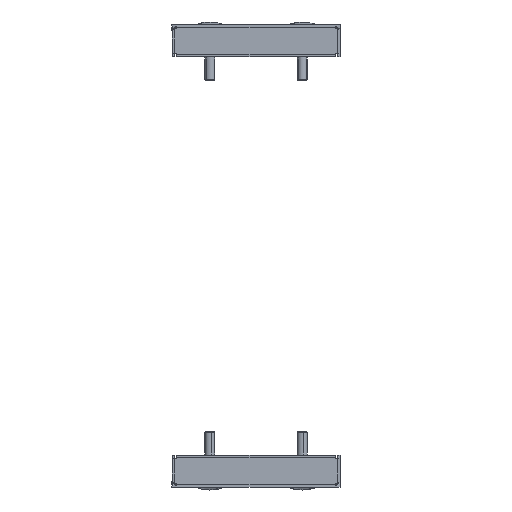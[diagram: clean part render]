
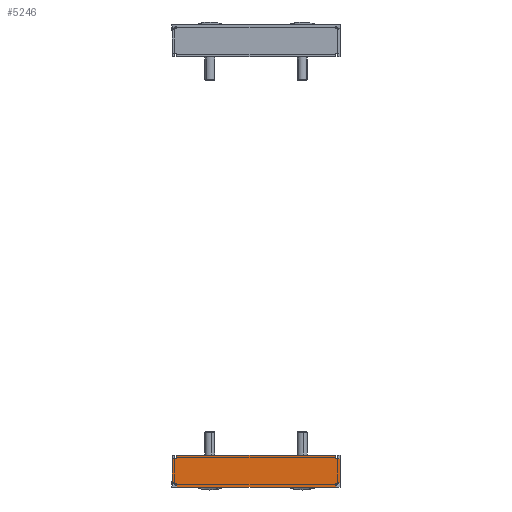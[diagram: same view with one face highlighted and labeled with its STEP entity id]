
A CAD part, left-side view. The second image highlights one B-rep face of the part: STEP entity #5246.
In plain terms, the highlighted planar face has unit normal (-1, 0, 0).
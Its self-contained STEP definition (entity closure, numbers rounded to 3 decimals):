
#41 = DIRECTION ( 'NONE',  ( 0., 0., 1. ) ) ;
#142 = VERTEX_POINT ( 'NONE', #6047 ) ;
#254 = CARTESIAN_POINT ( 'NONE',  ( -499.5, 47.3, 17.5 ) ) ;
#287 = ORIENTED_EDGE ( 'NONE', *, *, #7108, .F. ) ;
#315 = ORIENTED_EDGE ( 'NONE', *, *, #7065, .T. ) ;
#444 = ORIENTED_EDGE ( 'NONE', *, *, #842, .T. ) ;
#465 = VECTOR ( 'NONE', #5627, 1000. ) ;
#595 = CARTESIAN_POINT ( 'NONE',  ( -499.5, 50., 0.777 ) ) ;
#716 = CARTESIAN_POINT ( 'NONE',  ( -499.5, -50., 0. ) ) ;
#825 = B_SPLINE_CURVE_WITH_KNOTS ( 'NONE', 3,
 ( #6835, #1570, #9921, #3043, #6098, #6050 ),
 .UNSPECIFIED., .F., .F.,
 ( 4, 2, 4 ),
 ( 0.006, 0.007, 0.008 ),
 .UNSPECIFIED. ) ;
#839 = VERTEX_POINT ( 'NONE', #9404 ) ;
#842 = EDGE_CURVE ( 'NONE', #3548, #7265, #4832, .T. ) ;
#946 = DIRECTION ( 'NONE',  ( 0., 0., 1. ) ) ;
#1006 = CARTESIAN_POINT ( 'NONE',  ( -499.5, -47.9, 15.4 ) ) ;
#1037 = EDGE_CURVE ( 'NONE', #1962, #839, #5683, .T. ) ;
#1074 = ORIENTED_EDGE ( 'NONE', *, *, #4295, .F. ) ;
#1080 = LINE ( 'NONE', #5502, #6537 ) ;
#1097 = CARTESIAN_POINT ( 'NONE',  ( -499.5, -47.3, -1.5 ) ) ;
#1181 = VECTOR ( 'NONE', #4213, 1000. ) ;
#1254 = CARTESIAN_POINT ( 'NONE',  ( -499.5, 48.599, 0.674 ) ) ;
#1308 = VECTOR ( 'NONE', #9075, 1000. ) ;
#1570 = CARTESIAN_POINT ( 'NONE',  ( -499.5, -48.249, 0.637 ) ) ;
#1587 = EDGE_CURVE ( 'NONE', #3400, #2205, #2339, .T. ) ;
#1854 = CARTESIAN_POINT ( 'NONE',  ( -499.5, -47.3, 0. ) ) ;
#1856 = DIRECTION ( 'NONE',  ( 0., -1., 0. ) ) ;
#1936 = ORIENTED_EDGE ( 'NONE', *, *, #1587, .T. ) ;
#1962 = VERTEX_POINT ( 'NONE', #1006 ) ;
#1969 = CARTESIAN_POINT ( 'NONE',  ( -499.5, 47.9, 0.6 ) ) ;
#2012 = EDGE_CURVE ( 'NONE', #2205, #8472, #6322, .T. ) ;
#2100 = LINE ( 'NONE', #2812, #7271 ) ;
#2145 = DIRECTION ( 'NONE',  ( 0., 0., -1. ) ) ;
#2189 = ORIENTED_EDGE ( 'NONE', *, *, #2635, .T. ) ;
#2205 = VERTEX_POINT ( 'NONE', #5178 ) ;
#2251 = VERTEX_POINT ( 'NONE', #6767 ) ;
#2272 = LINE ( 'NONE', #716, #1308 ) ;
#2318 = VECTOR ( 'NONE', #8198, 1000. ) ;
#2339 = LINE ( 'NONE', #7702, #1181 ) ;
#2514 = CARTESIAN_POINT ( 'NONE',  ( -499.5, 0., 17.5 ) ) ;
#2527 = CARTESIAN_POINT ( 'NONE',  ( -499.5, 50., 15.4 ) ) ;
#2597 = ORIENTED_EDGE ( 'NONE', *, *, #2012, .T. ) ;
#2607 = VECTOR ( 'NONE', #9569, 1000. ) ;
#2635 = EDGE_CURVE ( 'NONE', #1962, #2251, #1080, .T. ) ;
#2671 = CARTESIAN_POINT ( 'NONE',  ( -499.5, 47.9, 15.4 ) ) ;
#2693 = LINE ( 'NONE', #3657, #2607 ) ;
#2733 = LINE ( 'NONE', #5784, #3742 ) ;
#2772 = VECTOR ( 'NONE', #7132, 1000. ) ;
#2812 = CARTESIAN_POINT ( 'NONE',  ( -499.5, 50., 0. ) ) ;
#2914 = VERTEX_POINT ( 'NONE', #254 ) ;
#2942 = LINE ( 'NONE', #7592, #8864 ) ;
#3004 = DIRECTION ( 'NONE',  ( 0., -1., 0. ) ) ;
#3043 = CARTESIAN_POINT ( 'NONE',  ( -499.5, -49.299, 0.734 ) ) ;
#3229 = CARTESIAN_POINT ( 'NONE',  ( -499.5, 47.9, 0.6 ) ) ;
#3318 = ORIENTED_EDGE ( 'NONE', *, *, #1037, .F. ) ;
#3400 = VERTEX_POINT ( 'NONE', #3229 ) ;
#3488 = CARTESIAN_POINT ( 'NONE',  ( -499.5, 49.649, 0.758 ) ) ;
#3548 = VERTEX_POINT ( 'NONE', #2671 ) ;
#3549 = CARTESIAN_POINT ( 'NONE',  ( -499.5, -47.3, 17.5 ) ) ;
#3657 = CARTESIAN_POINT ( 'NONE',  ( -499.5, 0., -1.5 ) ) ;
#3665 = VERTEX_POINT ( 'NONE', #3960 ) ;
#3667 = CARTESIAN_POINT ( 'NONE',  ( -499.5, 0., 0. ) ) ;
#3742 = VECTOR ( 'NONE', #7384, 1000. ) ;
#3960 = CARTESIAN_POINT ( 'NONE',  ( -499.5, 50., 0.777 ) ) ;
#4020 = EDGE_CURVE ( 'NONE', #3665, #3400, #8910, .T. ) ;
#4090 = CARTESIAN_POINT ( 'NONE',  ( -499.5, 47.3, 0.6 ) ) ;
#4102 = CARTESIAN_POINT ( 'NONE',  ( -499.5, -50., 0.777 ) ) ;
#4213 = DIRECTION ( 'NONE',  ( 0., -1., 0. ) ) ;
#4219 = DIRECTION ( 'NONE',  ( 1., 0., 0. ) ) ;
#4295 = EDGE_CURVE ( 'NONE', #7650, #9001, #4880, .T. ) ;
#4832 = LINE ( 'NONE', #5426, #465 ) ;
#4877 = EDGE_CURVE ( 'NONE', #2914, #6852, #5622, .T. ) ;
#4880 = LINE ( 'NONE', #1854, #5770 ) ;
#4987 = CARTESIAN_POINT ( 'NONE',  ( -499.5, 0., 15.4 ) ) ;
#5178 = CARTESIAN_POINT ( 'NONE',  ( -499.5, 47.3, 0.6 ) ) ;
#5242 = AXIS2_PLACEMENT_3D ( 'NONE', #3667, #4219, #2145 ) ;
#5246 = ADVANCED_FACE ( 'NONE', ( #6645 ), #8928, .F. ) ;
#5360 = ORIENTED_EDGE ( 'NONE', *, *, #4020, .T. ) ;
#5387 = EDGE_CURVE ( 'NONE', #142, #6339, #825, .T. ) ;
#5426 = CARTESIAN_POINT ( 'NONE',  ( -499.5, 47.9, 15.4 ) ) ;
#5502 = CARTESIAN_POINT ( 'NONE',  ( -499.5, -47.9, 15.4 ) ) ;
#5604 = EDGE_CURVE ( 'NONE', #8472, #9001, #2693, .T. ) ;
#5622 = LINE ( 'NONE', #2514, #9240 ) ;
#5627 = DIRECTION ( 'NONE',  ( 0., 1., 0. ) ) ;
#5683 = LINE ( 'NONE', #4987, #2318 ) ;
#5719 = EDGE_LOOP ( 'NONE', ( #2189, #315, #7055, #8800, #8036, #444, #8535, #5360, #1936, #2597, #7922, #1074, #9639, #8304, #287, #3318 ) ) ;
#5770 = VECTOR ( 'NONE', #7937, 1000. ) ;
#5784 = CARTESIAN_POINT ( 'NONE',  ( -499.5, -47.9, 0.6 ) ) ;
#6000 = VECTOR ( 'NONE', #3004, 1000. ) ;
#6047 = CARTESIAN_POINT ( 'NONE',  ( -499.5, -47.9, 0.6 ) ) ;
#6050 = CARTESIAN_POINT ( 'NONE',  ( -499.5, -50., 0.777 ) ) ;
#6098 = CARTESIAN_POINT ( 'NONE',  ( -499.5, -49.649, 0.758 ) ) ;
#6322 = LINE ( 'NONE', #4090, #2772 ) ;
#6339 = VERTEX_POINT ( 'NONE', #4102 ) ;
#6537 = VECTOR ( 'NONE', #9526, 1000. ) ;
#6570 = CARTESIAN_POINT ( 'NONE',  ( -499.5, 49.299, 0.734 ) ) ;
#6645 = FACE_OUTER_BOUND ( 'NONE', #5719, .T. ) ;
#6767 = CARTESIAN_POINT ( 'NONE',  ( -499.5, -47.3, 15.4 ) ) ;
#6805 = LINE ( 'NONE', #9890, #6000 ) ;
#6835 = CARTESIAN_POINT ( 'NONE',  ( -499.5, -47.9, 0.6 ) ) ;
#6852 = VERTEX_POINT ( 'NONE', #3549 ) ;
#7042 = CARTESIAN_POINT ( 'NONE',  ( -499.5, 47.3, 15.4 ) ) ;
#7055 = ORIENTED_EDGE ( 'NONE', *, *, #4877, .F. ) ;
#7065 = EDGE_CURVE ( 'NONE', #2251, #6852, #2942, .T. ) ;
#7067 = CARTESIAN_POINT ( 'NONE',  ( -499.5, 47.3, 0. ) ) ;
#7108 = EDGE_CURVE ( 'NONE', #839, #6339, #2272, .T. ) ;
#7132 = DIRECTION ( 'NONE',  ( 0., 0., -1. ) ) ;
#7265 = VERTEX_POINT ( 'NONE', #2527 ) ;
#7271 = VECTOR ( 'NONE', #7418, 1000. ) ;
#7343 = EDGE_CURVE ( 'NONE', #142, #7650, #2733, .T. ) ;
#7384 = DIRECTION ( 'NONE',  ( 0., 1., 0. ) ) ;
#7418 = DIRECTION ( 'NONE',  ( 0., 0., -1. ) ) ;
#7592 = CARTESIAN_POINT ( 'NONE',  ( -499.5, -47.3, 15.4 ) ) ;
#7650 = VERTEX_POINT ( 'NONE', #8497 ) ;
#7702 = CARTESIAN_POINT ( 'NONE',  ( -499.5, 47.9, 0.6 ) ) ;
#7826 = LINE ( 'NONE', #7067, #8244 ) ;
#7922 = ORIENTED_EDGE ( 'NONE', *, *, #5604, .T. ) ;
#7937 = DIRECTION ( 'NONE',  ( 0., 0., -1. ) ) ;
#7950 = CARTESIAN_POINT ( 'NONE',  ( -499.5, 47.3, -1.5 ) ) ;
#8036 = ORIENTED_EDGE ( 'NONE', *, *, #9938, .F. ) ;
#8198 = DIRECTION ( 'NONE',  ( 0., -1., 0. ) ) ;
#8244 = VECTOR ( 'NONE', #946, 1000. ) ;
#8304 = ORIENTED_EDGE ( 'NONE', *, *, #5387, .T. ) ;
#8472 = VERTEX_POINT ( 'NONE', #7950 ) ;
#8497 = CARTESIAN_POINT ( 'NONE',  ( -499.5, -47.3, 0.6 ) ) ;
#8535 = ORIENTED_EDGE ( 'NONE', *, *, #9110, .T. ) ;
#8800 = ORIENTED_EDGE ( 'NONE', *, *, #8969, .F. ) ;
#8864 = VECTOR ( 'NONE', #41, 1000. ) ;
#8910 = B_SPLINE_CURVE_WITH_KNOTS ( 'NONE', 3,
 ( #595, #3488, #6570, #1254, #9603, #1969 ),
 .UNSPECIFIED., .F., .F.,
 ( 4, 2, 4 ),
 ( 0.006, 0.007, 0.008 ),
 .UNSPECIFIED. ) ;
#8928 = PLANE ( 'NONE',  #5242 ) ;
#8969 = EDGE_CURVE ( 'NONE', #9336, #2914, #7826, .T. ) ;
#9001 = VERTEX_POINT ( 'NONE', #1097 ) ;
#9075 = DIRECTION ( 'NONE',  ( 0., 0., -1. ) ) ;
#9110 = EDGE_CURVE ( 'NONE', #7265, #3665, #2100, .T. ) ;
#9240 = VECTOR ( 'NONE', #1856, 1000. ) ;
#9336 = VERTEX_POINT ( 'NONE', #7042 ) ;
#9404 = CARTESIAN_POINT ( 'NONE',  ( -499.5, -50., 15.4 ) ) ;
#9526 = DIRECTION ( 'NONE',  ( 0., 1., 0. ) ) ;
#9569 = DIRECTION ( 'NONE',  ( 0., -1., 0. ) ) ;
#9603 = CARTESIAN_POINT ( 'NONE',  ( -499.5, 48.249, 0.637 ) ) ;
#9639 = ORIENTED_EDGE ( 'NONE', *, *, #7343, .F. ) ;
#9890 = CARTESIAN_POINT ( 'NONE',  ( -499.5, 47.9, 15.4 ) ) ;
#9921 = CARTESIAN_POINT ( 'NONE',  ( -499.5, -48.599, 0.674 ) ) ;
#9938 = EDGE_CURVE ( 'NONE', #3548, #9336, #6805, .T. ) ;
